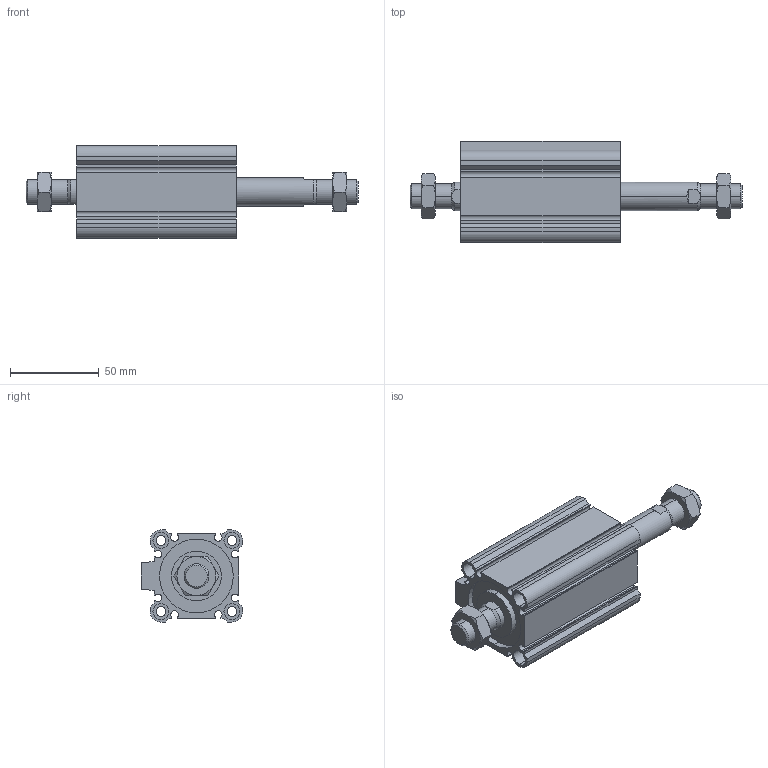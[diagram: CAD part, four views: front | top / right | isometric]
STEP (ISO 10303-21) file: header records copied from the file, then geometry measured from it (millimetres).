
FILE_DESCRIPTION (( 'STEP AP203' ), '1' );
FILE_NAME ('CCMB40-40M-P.STEP', '2020-08-10T11:39:59', ( '' ), ( '' ), 'SwSTEP 2.0', 'SolidWorks 2019', '' );
FILE_SCHEMA (( 'CONFIG_CONTROL_DESIGN' ));
Length unit declared in the file: millimetre
Products named in the file (1): CCMB40-40M-P
Bounding box: 187 x 57 x 52 mm (x, y, z)
Volume: 177226.3 mm3; surface area: 66867 mm2
Topology: 4 solids, 4 shells, 216 faces, 522 edges, 332 vertices
Faces by surface type: plane 94, cylinder 78, cone 44
Entity records: 7009 total; most frequent: CARTESIAN_POINT 1819, DIRECTION 1088, ORIENTED_EDGE 1044, EDGE_CURVE 522, AXIS2_PLACEMENT_3D 413, VERTEX_POINT 332, VECTOR 262, LINE 262
